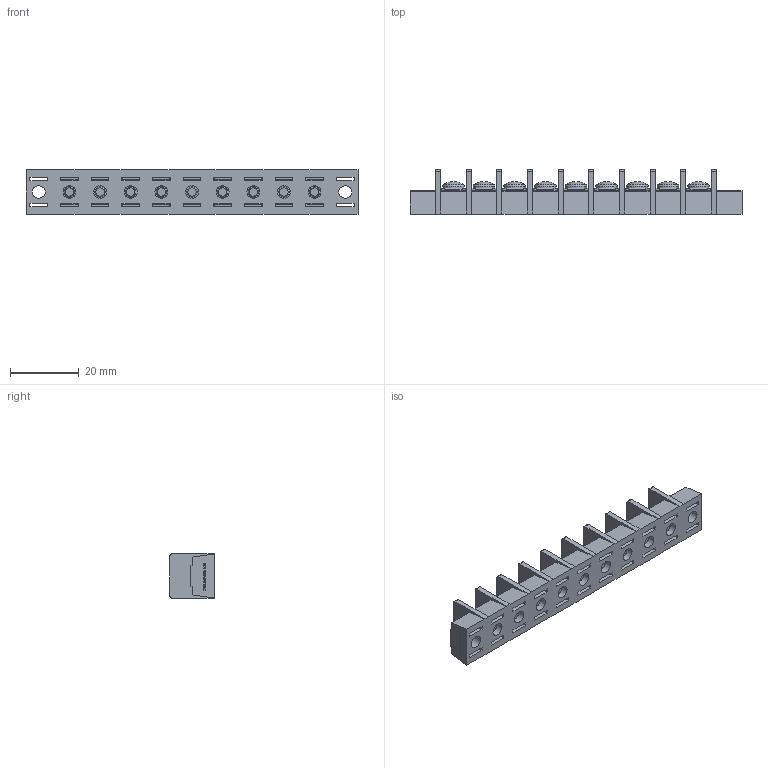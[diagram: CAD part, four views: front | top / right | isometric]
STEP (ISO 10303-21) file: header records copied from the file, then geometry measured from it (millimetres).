
FILE_DESCRIPTION(/* description */ ('Alibre Inc.'),/* implementation_level */ '2;1');
FILE_NAME(/* name */ 'export0',/* time_stamp */ '2015-10-20T20:39:10+09:00',/* author */ (''),/* organization */ (''),/* preprocessor_version */ 'ST-DEVELOPER v14',/* originating_system */ 'Alibre',/* authorisation */ '');
FILE_SCHEMA (('CONFIG_CONTROL_DESIGN'));
Length unit declared in the file: centimetre
Products named in the file (1): ID_1
Bounding box: 96.3 x 12.8 x 12.8 mm (x, y, z)
Volume: 8368.5 mm3; surface area: 10170.5 mm2
Topology: 1 solids, 154 shells, 2905 faces, 7429 edges, 4910 vertices
Faces by surface type: plane 2174, bspline 572, cylinder 87, cone 45, torus 18, sphere 9
Full cylindrical faces by diameter (mm): 3 x18, 3.7 x11, 4.6 x11, 6.3 x9
Entity records: 83991 total; most frequent: CARTESIAN_POINT 20359, ORIENTED_EDGE 14684, DIRECTION 8786, EDGE_CURVE 7342, VECTOR 5673, LINE 5673, VERTEX_POINT 4899, EDGE_LOOP 3197
